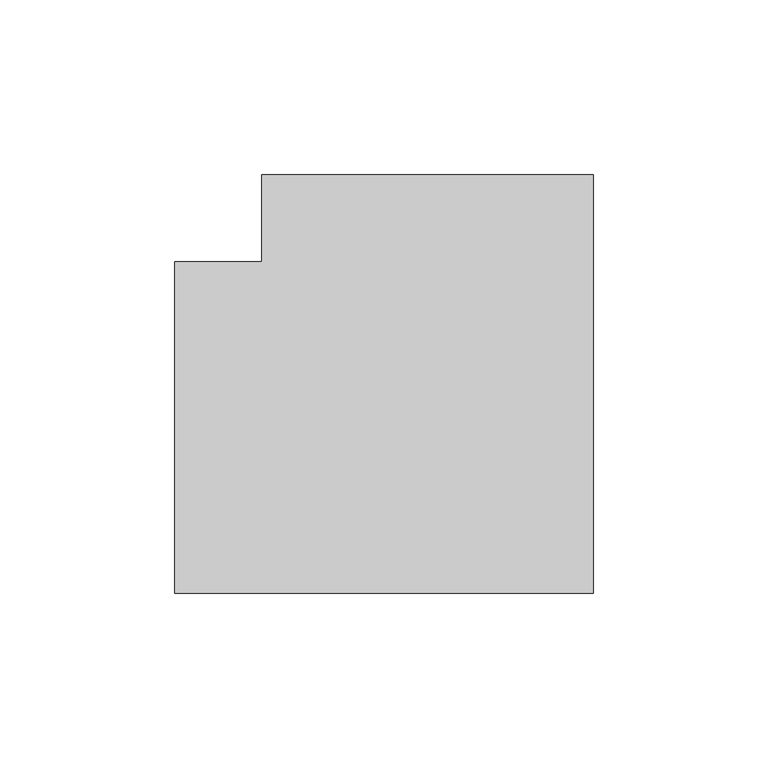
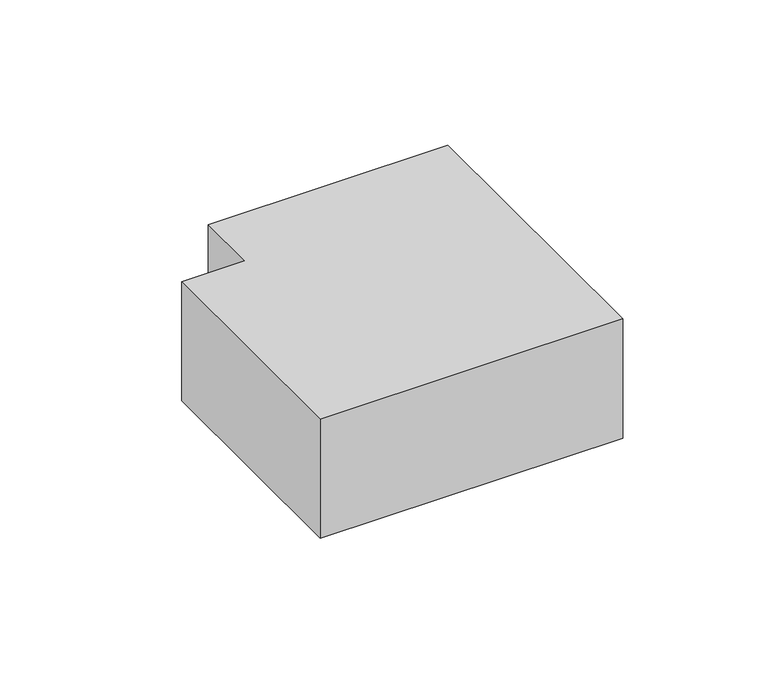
"""IFC4 building model written with IfcOpenShell, lengths in millimetres: duct fitting geometry, КНС_УголПлоский_DKC : Угол плоский."""

from ifc_helpers import new_model, si_unit, frame, origin, place, context, project, spatial, polyline, outline, extrude, source, transform, mapped, element, save


def duct_fitting_57781086(model_context):
    return source(origin(), model_context, "Body", "SweptSolid", [
        extrude(outline(polyline([(-62.3334112, -62.5757244), (-62.3334112, 32.4242756), (-37.3334112, 32.4242756), (-37.3334112, 57.4242756), (57.6665888, 57.4242756), (57.6665888, -62.5757244), (-62.3334112, -62.5757244)])), frame((0.0, 0.0, -25.0), z_axis=(0.0, 0.0, 1.0), x_axis=(1.0, 0.0, 0.0)), (0.0, 0.0, 1.0), 50.0),
    ])


if __name__ == "__main__":
    model = new_model("IFC4")
    model_context = context("Model", 3, world=origin())
    ifc_project = project(units=[si_unit("LENGTHUNIT", "METRE", prefix="MILLI")], contexts=[model_context])
    site = spatial("IfcSite", under=ifc_project)
    building = spatial("IfcBuilding", under=site)
    placement = place(None, origin())
    duct_fitting_shape = duct_fitting_57781086(model_context)
    element("IfcDuctFitting", 1, ObjectType="КНС_УголПлоский_DKC : Угол плоский", at=placement, inside=building, context=model_context, shape_type="MappedRepresentation", body=[
        mapped(duct_fitting_shape, transform((0.0, 0.0, 0.0), x_axis=(1.0, 0.0, 0.0), y_axis=(0.0, 1.0, 0.0), z_axis=(0.0, 0.0, 1.0))),
    ])
    save(model, "model.ifc")
